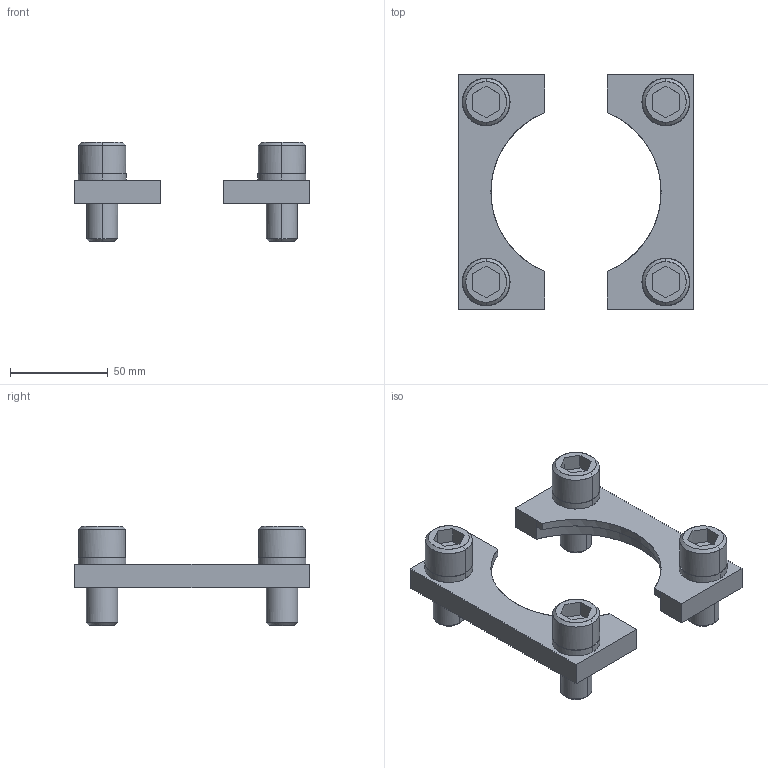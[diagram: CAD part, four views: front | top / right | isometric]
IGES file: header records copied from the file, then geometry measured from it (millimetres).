
Global section: file name: E:\UnigraphicsGraphicData\MISUMI_PRESS-PARTS\IGES\3d_sf95_05185_r00.igs; native system: NX V5.0; preprocessor: UGS NX IGES V5.0; author: MISUMI; date: 20110105.162529; units: millimetre
Bounding box: 120 x 120 x 51 mm (x, y, z)
Surface area: 44358.1 mm2 (no closed solid volume)
Topology: 0 solids, 0 shells, 136 faces, 900 edges, 900 vertices
Faces by surface type: bspline 136
